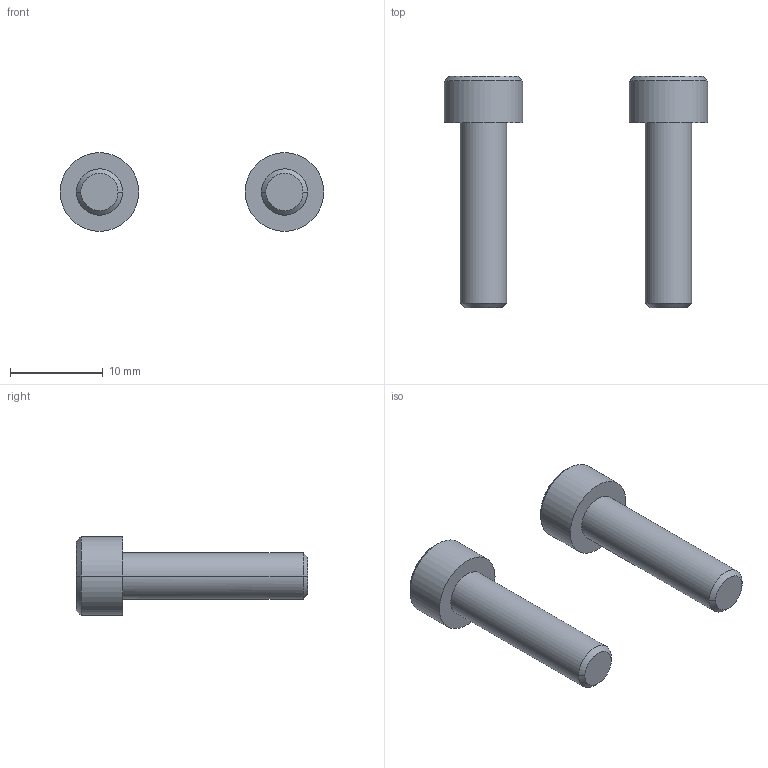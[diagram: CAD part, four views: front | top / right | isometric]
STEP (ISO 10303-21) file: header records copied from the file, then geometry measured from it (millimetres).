
FILE_DESCRIPTION(/* description */ (''),/* implementation_level */ '2;1');
FILE_NAME(/* name */ '10.optics-laser#10.1#CB5-20',/* time_stamp */ '2014-12-01T20:18:54+01:00',/* author */ (''),/* organization */ (''),/* preprocessor_version */ 'ST-DEVELOPER v14',/* originating_system */ '',/* authorisation */ '');
FILE_SCHEMA (('AUTOMOTIVE_DESIGN'));
Length unit declared in the file: millimetre
Products named in the file (2): Document; screw DIN912-like, M5x20
Assembly tree (2 placements, depth 2):
  Document
    screw DIN912-like, M5x20  x2
Bounding box: 28.5 x 25 x 8.49 mm (x, y, z)
Volume: 1273.3 mm3; surface area: 1167.4 mm2
Topology: 2 solids, 2 shells, 50 faces, 112 edges, 66 vertices
Faces by surface type: plane 30, bspline 20
Entity records: 1413 total; most frequent: CARTESIAN_POINT 633, B_SPLINE_CURVE_WITH_KNOTS 126, ORIENTED_EDGE 108, PCURVE 108, DEFINITIONAL_REPRESENTATION 108, SURFACE_CURVE 54, EDGE_CURVE 54, VERTEX_POINT 33
